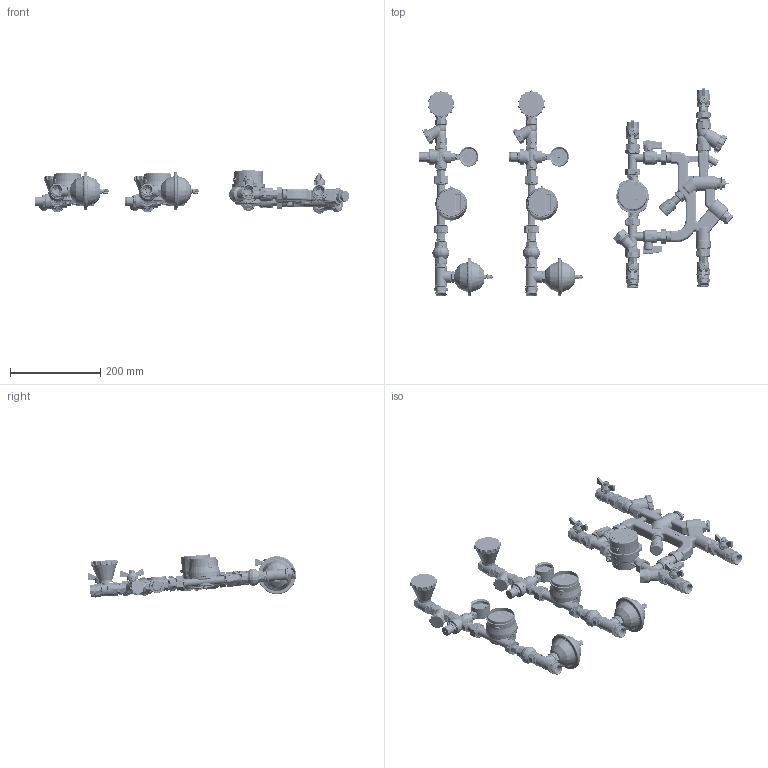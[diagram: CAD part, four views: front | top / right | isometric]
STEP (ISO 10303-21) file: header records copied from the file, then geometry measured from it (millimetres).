
FILE_DESCRIPTION(/* description */ (''),/* implementation_level */ '2;1');
FILE_NAME(/* name */ 'F:\Артём\00000\Работа удаленка\Квартирные станции с вертикальным размещением отопительного модуля\VT.NM.VP.06.0.0.stp',/* time_stamp */ '2021-03-09T11:03:38+03:00',/* author */ ('almis'),/* organization */ (''),/* preprocessor_version */ 'ST-DEVELOPER v18',/* originating_system */ 'Autodesk Inventor 2020',/* authorisation */ '');
FILE_SCHEMA (('AUTOMOTIVE_DESIGN { 1 0 10303 214 3 1 1 }'));
Length unit declared in the file: inch
Products named in the file (17): VT.NM.VF.00.0.0; VTr.611.N.0004; VT.088.N.0455RM; VT.193.N.04; VT.214_ВВ_1%2; VT.151.N.04; VTr.582.N.0004; Труба_025; VT.CAR19.I; VT.CM.EQM2.K_01; VT.193.N.05; VT.241.N.0405; VT.241.N.0405_02; VTr.582.N.0005; VTr.580.NE.040E; VLF-15U-IRS; VHM-T-15_
Assembly tree (40 placements, depth 2):
  VT.NM.VF.00.0.0
    VTr.611.N.0004  x4
    VTr.582.N.0004  x6
    VT.088.N.0455RM  x2
    VT.193.N.04  x2
    VT.214_ВВ_1%2  x2
    VT.151.N.04  x2
    Труба_025  x2
    VT.CAR19.I  x2
    VTr.580.NE.040E  x4
    VT.CM.EQM2.K_01
    VT.241.N.0405  x4
    VT.241.N.0405_02  x4
    VT.193.N.05
    VTr.582.N.0005
    VLF-15U-IRS  x2
    VHM-T-15_
Bounding box: 694.91 x 459.75 x 95.67 mm (x, y, z)
Volume: 1465108.4 mm3; surface area: 837425.9 mm2
Topology: 63 solids, 84 shells, 27479 faces, 72958 edges, 46959 vertices
Faces by surface type: plane 10623, bspline 8206, cylinder 6019, torus 1270, cone 1015, sphere 346
Full cylindrical faces by diameter (mm): 0.5 x4, 1 x6, 1.1 x4, 1.15 x2, 1.48 x4, 1.49 x4, 1.5 x23, 1.7 x4, 1.99 x1, 2 x74, 2.05 x2, 2.1 x3, 2.3 x2, 2.5 x25, 2.7 x4, 3 x17, 3.2 x1, 3.3 x2, 3.5 x2, 4 x16, 4.05 x2, 4.5 x46, 4.9 x2, 4.99 x1, 5 x16, 5.5 x51, 5.6 x3, 5.774 x1, 5.8 x2, 6 x3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
Entity records: 765619 total; most frequent: CARTESIAN_POINT 383663, ORIENTED_EDGE 88612, DIRECTION 64298, EDGE_CURVE 44306, VERTEX_POINT 28559, AXIS2_PLACEMENT_3D 22060, LINE 20178, VECTOR 20178
